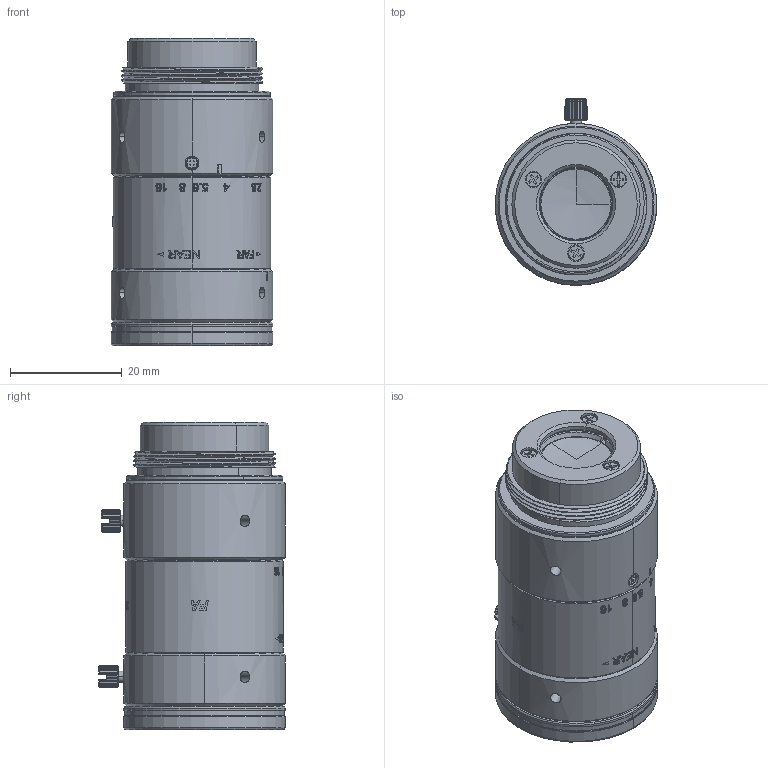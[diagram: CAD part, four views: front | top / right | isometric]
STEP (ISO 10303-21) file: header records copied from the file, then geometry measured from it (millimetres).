
FILE_DESCRIPTION((''),'2;1');
FILE_NAME('LS-MF3528M-10MPE.stp','2024-10-02T10:08:24',('LumaSpec Vision'),('LumaSpec Vision'),'LumaSpec Vision','LumaSpec Vision','');
FILE_SCHEMA(('CONFIG_CONTROL_DESIGN'));
Products named in the file (1): LS-MF3528M-10MPE
Bounding box: 29 x 33.5 x 55.07 mm (x, y, z)
Volume: 20543.6 mm3; surface area: 15991.3 mm2
Topology: 1 solids, 34 shells, 4748 faces, 14007 edges, 9271 vertices
Faces by surface type: bspline 2824, plane 1306, cylinder 432, cone 142, extrusion 20, torus 16, sphere 8
Entity records: 222711 total; most frequent: CARTESIAN_POINT 111117, ORIENTED_EDGE 27495, DIRECTION 15142, EDGE_CURVE 13999, VECTOR 9508, LINE 9488, VERTEX_POINT 9271, EDGE_LOOP 4875
